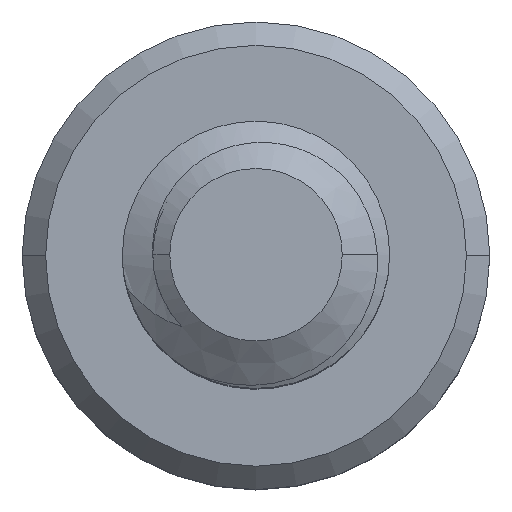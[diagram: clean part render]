
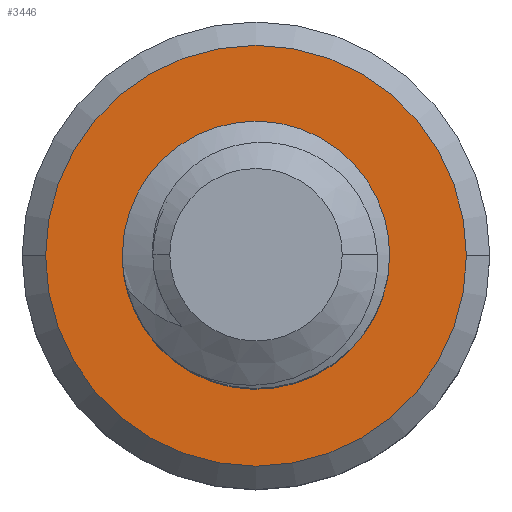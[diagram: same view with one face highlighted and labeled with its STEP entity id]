
A CAD part, top view. The second image highlights one B-rep face of the part: STEP entity #3446.
In plain terms, the highlighted planar face has unit normal (0, 0, 1).
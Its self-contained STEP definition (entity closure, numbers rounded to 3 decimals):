
#43 = DIRECTION ( 'NONE',  ( 1., 0., 0. ) ) ;
#53 = CARTESIAN_POINT ( 'NONE',  ( 1.319, 1.002, -9. ) ) ;
#66 = CARTESIAN_POINT ( 'NONE',  ( 1.401, 0.849, -9. ) ) ;
#83 = CIRCLE ( 'NONE', #3235, 1.545 ) ;
#113 = CIRCLE ( 'NONE', #2032, 3.15 ) ;
#126 = EDGE_CURVE ( 'NONE', #2209, #1770, #113, .T. ) ;
#203 = CARTESIAN_POINT ( 'NONE',  ( -0.287, -1.733, -9. ) ) ;
#269 = DIRECTION ( 'NONE',  ( -1., 0., 0. ) ) ;
#310 = CARTESIAN_POINT ( 'NONE',  ( -1.553, 1.261, -9. ) ) ;
#360 = CARTESIAN_POINT ( 'NONE',  ( 1.536, 0.166, -9. ) ) ;
#450 = CARTESIAN_POINT ( 'NONE',  ( 1.2, -0.974, -9. ) ) ;
#460 = DIRECTION ( 'NONE',  ( 0., 0., 1. ) ) ;
#463 = VERTEX_POINT ( 'NONE', #450 ) ;
#532 = CARTESIAN_POINT ( 'NONE',  ( 0.236, -1.687, -9. ) ) ;
#566 = EDGE_CURVE ( 'NONE', #2304, #942, #2475, .T. ) ;
#572 = DIRECTION ( 'NONE',  ( 0., 0., 1. ) ) ;
#720 = DIRECTION ( 'NONE',  ( 1., 0., 0. ) ) ;
#775 = DIRECTION ( 'NONE',  ( -1., 0., 0. ) ) ;
#798 = CARTESIAN_POINT ( 'NONE',  ( 1.536, 0.166, -9. ) ) ;
#836 = AXIS2_PLACEMENT_3D ( 'NONE', #1582, #938, #43 ) ;
#851 = FACE_OUTER_BOUND ( 'NONE', #3330, .T. ) ;
#876 = VERTEX_POINT ( 'NONE', #3381 ) ;
#938 = DIRECTION ( 'NONE',  ( 0., 0., 1. ) ) ;
#942 = VERTEX_POINT ( 'NONE', #1016 ) ;
#950 = CARTESIAN_POINT ( 'NONE',  ( 0.213, 1.802, -9. ) ) ;
#1016 = CARTESIAN_POINT ( 'NONE',  ( -1.988, -0.214, -9. ) ) ;
#1144 = CARTESIAN_POINT ( 'NONE',  ( 0., 0., -9. ) ) ;
#1164 = AXIS2_PLACEMENT_3D ( 'NONE', #1869, #2156, #3030 ) ;
#1169 = EDGE_CURVE ( 'NONE', #3325, #2304, #1828, .T. ) ;
#1190 = EDGE_CURVE ( 'NONE', #876, #463, #3461, .T. ) ;
#1200 = CARTESIAN_POINT ( 'NONE',  ( -3.15, 0., -9. ) ) ;
#1257 = CARTESIAN_POINT ( 'NONE',  ( 0.543, 1.692, -9. ) ) ;
#1299 = DIRECTION ( 'NONE',  ( 0., 0., -1. ) ) ;
#1405 = DIRECTION ( 'NONE',  ( 0., 0., -1. ) ) ;
#1438 = CARTESIAN_POINT ( 'NONE',  ( -0.801, -1.628, -9. ) ) ;
#1553 = CARTESIAN_POINT ( 'NONE',  ( 1.109, 1.284, -9. ) ) ;
#1568 = CARTESIAN_POINT ( 'NONE',  ( 0.037, 1.831, -9. ) ) ;
#1582 = CARTESIAN_POINT ( 'NONE',  ( 0., 0., -9. ) ) ;
#1598 = CARTESIAN_POINT ( 'NONE',  ( -1.429, 1.386, -9. ) ) ;
#1611 = EDGE_CURVE ( 'NONE', #463, #942, #2177, .T. ) ;
#1701 = ORIENTED_EDGE ( 'NONE', *, *, #1169, .F. ) ;
#1708 = ORIENTED_EDGE ( 'NONE', *, *, #1611, .T. ) ;
#1720 = DIRECTION ( 'NONE',  ( 1., 0., 0. ) ) ;
#1727 = CARTESIAN_POINT ( 'NONE',  ( 1.106, -1.124, -9. ) ) ;
#1736 = CARTESIAN_POINT ( 'NONE',  ( -1.893, -0.553, -9. ) ) ;
#1744 = CARTESIAN_POINT ( 'NONE',  ( -0.964, -1.56, -9. ) ) ;
#1770 = VERTEX_POINT ( 'NONE', #2370 ) ;
#1828 = CIRCLE ( 'NONE', #3135, 2. ) ;
#1860 = CARTESIAN_POINT ( 'NONE',  ( -1.291, 1.493, -9. ) ) ;
#1869 = CARTESIAN_POINT ( 'NONE',  ( 0., 0., -9. ) ) ;
#1890 = CARTESIAN_POINT ( 'NONE',  ( -1.553, 1.261, -9. ) ) ;
#1909 = CARTESIAN_POINT ( 'NONE',  ( 0.984, 1.407, -9. ) ) ;
#2012 = DIRECTION ( 'NONE',  ( 0., 0., 1. ) ) ;
#2032 = AXIS2_PLACEMENT_3D ( 'NONE', #3277, #572, #269 ) ;
#2033 = CARTESIAN_POINT ( 'NONE',  ( 0.717, -1.477, -9. ) ) ;
#2040 = DIRECTION ( 'NONE',  ( 1., 0., 0. ) ) ;
#2088 = VERTEX_POINT ( 'NONE', #798 ) ;
#2156 = DIRECTION ( 'NONE',  ( 0., 0., -1. ) ) ;
#2177 = B_SPLINE_CURVE_WITH_KNOTS ( 'NONE', 3,
 ( #3226, #1727, #3832, #2033, #2624, #532, #2938, #203, #2326, #1438, #1744, #3248, #3547, #3206, #3837, #1736, #2359, #2915 ),
 .UNSPECIFIED., .F., .F.,
 ( 4, 2, 2, 2, 2, 2, 2, 2, 4 ),
 ( 0., 0.001, 0.001, 0.002, 0.002, 0.003, 0.003, 0.004, 0.004 ),
 .UNSPECIFIED. ) ;
#2189 = B_SPLINE_CURVE_WITH_KNOTS ( 'NONE', 3,
 ( #310, #1598, #1860, #2748, #3348, #2460, #3055, #1568, #950, #1257, #3671, #1909, #1553, #53, #66, #2778, #3653, #360 ),
 .UNSPECIFIED., .F., .F.,
 ( 4, 2, 2, 2, 2, 2, 2, 2, 4 ),
 ( 0., 0.001, 0.001, 0.002, 0.002, 0.003, 0.003, 0.004, 0.004 ),
 .UNSPECIFIED. ) ;
#2209 = VERTEX_POINT ( 'NONE', #1200 ) ;
#2304 = VERTEX_POINT ( 'NONE', #3309 ) ;
#2326 = CARTESIAN_POINT ( 'NONE',  ( -0.462, -1.715, -9. ) ) ;
#2359 = CARTESIAN_POINT ( 'NONE',  ( -1.952, -0.387, -9. ) ) ;
#2370 = CARTESIAN_POINT ( 'NONE',  ( 3.15, 0., -9. ) ) ;
#2460 = CARTESIAN_POINT ( 'NONE',  ( -0.487, 1.819, -9. ) ) ;
#2475 = CIRCLE ( 'NONE', #836, 2. ) ;
#2624 = CARTESIAN_POINT ( 'NONE',  ( 0.566, -1.563, -9. ) ) ;
#2691 = ORIENTED_EDGE ( 'NONE', *, *, #3333, .T. ) ;
#2740 = EDGE_LOOP ( 'NONE', ( #1701, #3433, #2691, #3242, #1708, #2872 ) ) ;
#2748 = CARTESIAN_POINT ( 'NONE',  ( -0.988, 1.668, -9. ) ) ;
#2778 = CARTESIAN_POINT ( 'NONE',  ( 1.514, 0.515, -9. ) ) ;
#2844 = FACE_BOUND ( 'NONE', #2740, .T. ) ;
#2872 = ORIENTED_EDGE ( 'NONE', *, *, #566, .F. ) ;
#2915 = CARTESIAN_POINT ( 'NONE',  ( -1.988, -0.214, -9. ) ) ;
#2923 = CIRCLE ( 'NONE', #3118, 3.15 ) ;
#2937 = ORIENTED_EDGE ( 'NONE', *, *, #2947, .T. ) ;
#2938 = CARTESIAN_POINT ( 'NONE',  ( 0.064, -1.719, -9. ) ) ;
#2947 = EDGE_CURVE ( 'NONE', #1770, #2209, #2923, .T. ) ;
#3030 = DIRECTION ( 'NONE',  ( -1., 0., 0. ) ) ;
#3055 = CARTESIAN_POINT ( 'NONE',  ( -0.31, 1.839, -9. ) ) ;
#3102 = CARTESIAN_POINT ( 'NONE',  ( 0., 0., -9. ) ) ;
#3118 = AXIS2_PLACEMENT_3D ( 'NONE', #3190, #460, #775 ) ;
#3135 = AXIS2_PLACEMENT_3D ( 'NONE', #3839, #2012, #1720 ) ;
#3190 = CARTESIAN_POINT ( 'NONE',  ( 0., 0., -9. ) ) ;
#3206 = CARTESIAN_POINT ( 'NONE',  ( -1.636, -1.012, -9. ) ) ;
#3226 = CARTESIAN_POINT ( 'NONE',  ( 1.2, -0.974, -9. ) ) ;
#3232 = EDGE_CURVE ( 'NONE', #3325, #2088, #2189, .T. ) ;
#3235 = AXIS2_PLACEMENT_3D ( 'NONE', #3102, #1299, #720 ) ;
#3242 = ORIENTED_EDGE ( 'NONE', *, *, #1190, .T. ) ;
#3248 = CARTESIAN_POINT ( 'NONE',  ( -1.263, -1.381, -9. ) ) ;
#3277 = CARTESIAN_POINT ( 'NONE',  ( 0., 0., -9. ) ) ;
#3309 = CARTESIAN_POINT ( 'NONE',  ( -2., 0., -9. ) ) ;
#3325 = VERTEX_POINT ( 'NONE', #1890 ) ;
#3330 = EDGE_LOOP ( 'NONE', ( #3902, #2937 ) ) ;
#3333 = EDGE_CURVE ( 'NONE', #2088, #876, #83, .T. ) ;
#3348 = CARTESIAN_POINT ( 'NONE',  ( -0.825, 1.734, -9. ) ) ;
#3381 = CARTESIAN_POINT ( 'NONE',  ( 1.545, 0., -9. ) ) ;
#3433 = ORIENTED_EDGE ( 'NONE', *, *, #3232, .T. ) ;
#3446 = ADVANCED_FACE ( 'NONE', ( #851, #2844 ), #3645, .F. ) ;
#3461 = CIRCLE ( 'NONE', #3541, 1.545 ) ;
#3541 = AXIS2_PLACEMENT_3D ( 'NONE', #1144, #1405, #2040 ) ;
#3547 = CARTESIAN_POINT ( 'NONE',  ( -1.401, -1.268, -9. ) ) ;
#3645 = PLANE ( 'NONE',  #1164 ) ;
#3653 = CARTESIAN_POINT ( 'NONE',  ( 1.54, 0.342, -9. ) ) ;
#3671 = CARTESIAN_POINT ( 'NONE',  ( 0.7, 1.612, -9. ) ) ;
#3832 = CARTESIAN_POINT ( 'NONE',  ( 0.991, -1.254, -9. ) ) ;
#3837 = CARTESIAN_POINT ( 'NONE',  ( -1.736, -0.864, -9. ) ) ;
#3839 = CARTESIAN_POINT ( 'NONE',  ( 0., 0., -9. ) ) ;
#3902 = ORIENTED_EDGE ( 'NONE', *, *, #126, .T. ) ;
